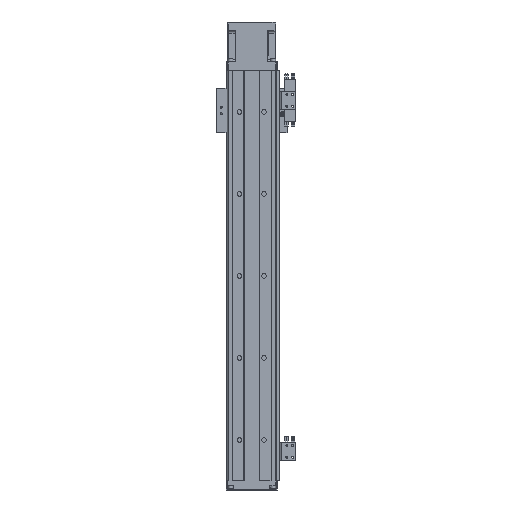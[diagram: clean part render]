
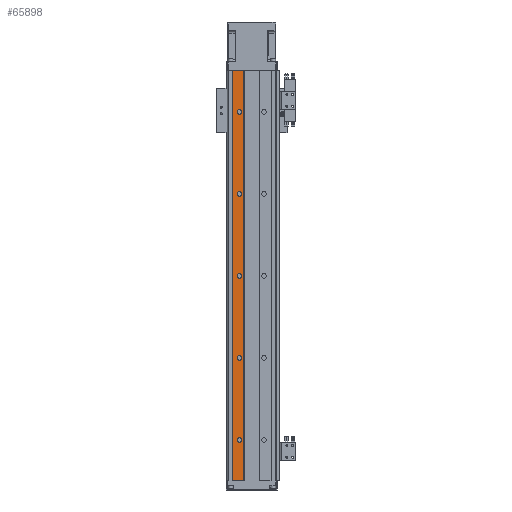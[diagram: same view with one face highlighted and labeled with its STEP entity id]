
A CAD part, front view. The second image highlights one B-rep face of the part: STEP entity #65898.
In plain terms, the highlighted planar face has unit normal (0, -1, 0).
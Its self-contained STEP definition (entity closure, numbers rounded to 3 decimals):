
#108 = VERTEX_POINT ( 'NONE', #5646 ) ;
#180 = VECTOR ( 'NONE', #5118, 1000. ) ;
#510 = DIRECTION ( 'NONE',  ( 0., 1., 0. ) ) ;
#621 = CARTESIAN_POINT ( 'NONE',  ( 17.335, 0.898, -197.25 ) ) ;
#821 = ORIENTED_EDGE ( 'NONE', *, *, #28308, .T. ) ;
#2213 = DIRECTION ( 'NONE',  ( 0., 1., 0. ) ) ;
#2401 = ORIENTED_EDGE ( 'NONE', *, *, #3720, .T. ) ;
#2985 = CARTESIAN_POINT ( 'NONE',  ( 17.335, 0.898, -100. ) ) ;
#3228 = FACE_BOUND ( 'NONE', #44550, .T. ) ;
#3720 = EDGE_CURVE ( 'NONE', #108, #20134, #22482, .T. ) ;
#4504 = AXIS2_PLACEMENT_3D ( 'NONE', #26364, #510, #18743 ) ;
#5041 = CARTESIAN_POINT ( 'NONE',  ( 8.835, 0.898, 250. ) ) ;
#5118 = DIRECTION ( 'NONE',  ( 0., 0., -1. ) ) ;
#5463 = EDGE_CURVE ( 'NONE', #20134, #108, #48154, .T. ) ;
#5646 = CARTESIAN_POINT ( 'NONE',  ( 17.335, 0.898, 97.25 ) ) ;
#5716 = DIRECTION ( 'NONE',  ( 1., 0., 0. ) ) ;
#5761 = DIRECTION ( 'NONE',  ( 0., 1., 0. ) ) ;
#6141 = CARTESIAN_POINT ( 'NONE',  ( 17.335, 0.898, 0. ) ) ;
#6714 = LINE ( 'NONE', #51543, #42991 ) ;
#9421 = CIRCLE ( 'NONE', #78183, 2.75 ) ;
#9423 = CARTESIAN_POINT ( 'NONE',  ( 17.335, 0.898, 102.75 ) ) ;
#9803 = VERTEX_POINT ( 'NONE', #82859 ) ;
#10988 = DIRECTION ( 'NONE',  ( 0., 0., 1. ) ) ;
#11996 = CARTESIAN_POINT ( 'NONE',  ( 17.335, 0.898, 200. ) ) ;
#12319 = DIRECTION ( 'NONE',  ( 0., 1., 0. ) ) ;
#12904 = LINE ( 'NONE', #54312, #74255 ) ;
#14657 = AXIS2_PLACEMENT_3D ( 'NONE', #6141, #12319, #37979 ) ;
#15137 = EDGE_CURVE ( 'NONE', #45537, #31749, #37731, .T. ) ;
#15677 = EDGE_CURVE ( 'NONE', #65454, #67209, #48644, .T. ) ;
#15811 = DIRECTION ( 'NONE',  ( 1., 0., 0. ) ) ;
#16348 = CARTESIAN_POINT ( 'NONE',  ( 22.835, 0.898, 250. ) ) ;
#16477 = DIRECTION ( 'NONE',  ( 0., 1., 0. ) ) ;
#16889 = PLANE ( 'NONE',  #55721 ) ;
#17222 = LINE ( 'NONE', #24753, #180 ) ;
#17753 = CARTESIAN_POINT ( 'NONE',  ( 17.335, 0.898, 100. ) ) ;
#18743 = DIRECTION ( 'NONE',  ( 0., 0., 1. ) ) ;
#20134 = VERTEX_POINT ( 'NONE', #9423 ) ;
#20760 = ORIENTED_EDGE ( 'NONE', *, *, #35880, .T. ) ;
#21337 = ORIENTED_EDGE ( 'NONE', *, *, #29000, .T. ) ;
#21769 = ORIENTED_EDGE ( 'NONE', *, *, #15677, .T. ) ;
#22482 = CIRCLE ( 'NONE', #67981, 2.75 ) ;
#22901 = CARTESIAN_POINT ( 'NONE',  ( 8.835, 0.898, -250. ) ) ;
#24218 = EDGE_LOOP ( 'NONE', ( #31549, #2401 ) ) ;
#24753 = CARTESIAN_POINT ( 'NONE',  ( 22.835, 0.898, 250. ) ) ;
#25480 = ORIENTED_EDGE ( 'NONE', *, *, #15137, .T. ) ;
#25782 = DIRECTION ( 'NONE',  ( 0., 0., 1. ) ) ;
#26357 = FACE_BOUND ( 'NONE', #24218, .T. ) ;
#26364 = CARTESIAN_POINT ( 'NONE',  ( 17.335, 0.898, 0. ) ) ;
#27568 = AXIS2_PLACEMENT_3D ( 'NONE', #55008, #16477, #74359 ) ;
#27976 = ORIENTED_EDGE ( 'NONE', *, *, #78620, .T. ) ;
#28308 = EDGE_CURVE ( 'NONE', #58928, #65454, #12904, .T. ) ;
#29000 = EDGE_CURVE ( 'NONE', #55350, #83364, #35865, .T. ) ;
#30740 = CARTESIAN_POINT ( 'NONE',  ( 17.335, 0.898, 2.75 ) ) ;
#31081 = CARTESIAN_POINT ( 'NONE',  ( 22.835, 0.898, -250. ) ) ;
#31549 = ORIENTED_EDGE ( 'NONE', *, *, #5463, .T. ) ;
#31607 = AXIS2_PLACEMENT_3D ( 'NONE', #51308, #5761, #50747 ) ;
#31609 = VECTOR ( 'NONE', #15811, 1000. ) ;
#31749 = VERTEX_POINT ( 'NONE', #55594 ) ;
#33209 = CIRCLE ( 'NONE', #31607, 2.75 ) ;
#33842 = CARTESIAN_POINT ( 'NONE',  ( 17.335, 0.898, 202.75 ) ) ;
#34251 = CARTESIAN_POINT ( 'NONE',  ( 17.335, 0.898, 200. ) ) ;
#34570 = EDGE_CURVE ( 'NONE', #83364, #55350, #68252, .T. ) ;
#35020 = ORIENTED_EDGE ( 'NONE', *, *, #41788, .F. ) ;
#35865 = CIRCLE ( 'NONE', #27568, 2.75 ) ;
#35880 = EDGE_CURVE ( 'NONE', #51031, #59528, #52958, .T. ) ;
#36479 = FACE_OUTER_BOUND ( 'NONE', #73974, .T. ) ;
#37731 = CIRCLE ( 'NONE', #4504, 2.75 ) ;
#37979 = DIRECTION ( 'NONE',  ( 0., 0., 1. ) ) ;
#39446 = CIRCLE ( 'NONE', #14657, 2.75 ) ;
#40688 = DIRECTION ( 'NONE',  ( 0., 1., 0. ) ) ;
#40911 = EDGE_LOOP ( 'NONE', ( #20760, #49172 ) ) ;
#40950 = ORIENTED_EDGE ( 'NONE', *, *, #42786, .T. ) ;
#41071 = ORIENTED_EDGE ( 'NONE', *, *, #42256, .T. ) ;
#41315 = CARTESIAN_POINT ( 'NONE',  ( 17.335, 0.898, -97.25 ) ) ;
#41788 = EDGE_CURVE ( 'NONE', #76113, #67209, #17222, .T. ) ;
#42252 = DIRECTION ( 'NONE',  ( 0., 1., 0. ) ) ;
#42256 = EDGE_CURVE ( 'NONE', #31749, #45537, #39446, .T. ) ;
#42786 = EDGE_CURVE ( 'NONE', #53541, #9803, #33209, .T. ) ;
#42991 = VECTOR ( 'NONE', #5716, 1000. ) ;
#43374 = DIRECTION ( 'NONE',  ( 0., 1., 0. ) ) ;
#44445 = EDGE_LOOP ( 'NONE', ( #40950, #27976 ) ) ;
#44550 = EDGE_LOOP ( 'NONE', ( #69955, #21337 ) ) ;
#44877 = DIRECTION ( 'NONE',  ( 0., 1., 0. ) ) ;
#45537 = VERTEX_POINT ( 'NONE', #30740 ) ;
#47257 = DIRECTION ( 'NONE',  ( 0., 0., -1. ) ) ;
#47887 = CARTESIAN_POINT ( 'NONE',  ( 22.835, 0.898, -250. ) ) ;
#48154 = CIRCLE ( 'NONE', #63801, 2.75 ) ;
#48197 = DIRECTION ( 'NONE',  ( 0., 0., 1. ) ) ;
#48644 = LINE ( 'NONE', #47887, #31609 ) ;
#49172 = ORIENTED_EDGE ( 'NONE', *, *, #78309, .T. ) ;
#50747 = DIRECTION ( 'NONE',  ( 0., 0., 1. ) ) ;
#50822 = DIRECTION ( 'NONE',  ( 0., 0., 1. ) ) ;
#51031 = VERTEX_POINT ( 'NONE', #33842 ) ;
#51308 = CARTESIAN_POINT ( 'NONE',  ( 17.335, 0.898, -200. ) ) ;
#51543 = CARTESIAN_POINT ( 'NONE',  ( 22.835, 0.898, 250. ) ) ;
#52958 = CIRCLE ( 'NONE', #78198, 2.75 ) ;
#53541 = VERTEX_POINT ( 'NONE', #621 ) ;
#54312 = CARTESIAN_POINT ( 'NONE',  ( 8.835, 0.898, 250. ) ) ;
#55008 = CARTESIAN_POINT ( 'NONE',  ( 17.335, 0.898, -100. ) ) ;
#55350 = VERTEX_POINT ( 'NONE', #69274 ) ;
#55594 = CARTESIAN_POINT ( 'NONE',  ( 17.335, 0.898, -2.75 ) ) ;
#55721 = AXIS2_PLACEMENT_3D ( 'NONE', #16348, #42252, #61817 ) ;
#57175 = ORIENTED_EDGE ( 'NONE', *, *, #67272, .F. ) ;
#57788 = DIRECTION ( 'NONE',  ( 0., 0., 1. ) ) ;
#58928 = VERTEX_POINT ( 'NONE', #5041 ) ;
#59528 = VERTEX_POINT ( 'NONE', #77890 ) ;
#61282 = CARTESIAN_POINT ( 'NONE',  ( 22.835, 0.898, 250. ) ) ;
#61817 = DIRECTION ( 'NONE',  ( 0., 0., 1. ) ) ;
#63551 = FACE_BOUND ( 'NONE', #44445, .T. ) ;
#63609 = DIRECTION ( 'NONE',  ( 0., 1., 0. ) ) ;
#63801 = AXIS2_PLACEMENT_3D ( 'NONE', #83371, #77159, #50822 ) ;
#63818 = CIRCLE ( 'NONE', #82501, 2.75 ) ;
#65454 = VERTEX_POINT ( 'NONE', #22901 ) ;
#65898 = ADVANCED_FACE ( 'NONE', ( #63551, #3228, #72575, #26357, #66527, #36479 ), #16889, .F. ) ;
#66527 = FACE_BOUND ( 'NONE', #40911, .T. ) ;
#67209 = VERTEX_POINT ( 'NONE', #31081 ) ;
#67272 = EDGE_CURVE ( 'NONE', #58928, #76113, #6714, .T. ) ;
#67981 = AXIS2_PLACEMENT_3D ( 'NONE', #17753, #43374, #10988 ) ;
#68252 = CIRCLE ( 'NONE', #79636, 2.75 ) ;
#69274 = CARTESIAN_POINT ( 'NONE',  ( 17.335, 0.898, -102.75 ) ) ;
#69955 = ORIENTED_EDGE ( 'NONE', *, *, #34570, .T. ) ;
#71559 = EDGE_LOOP ( 'NONE', ( #25480, #41071 ) ) ;
#72575 = FACE_BOUND ( 'NONE', #71559, .T. ) ;
#73974 = EDGE_LOOP ( 'NONE', ( #21769, #35020, #57175, #821 ) ) ;
#74255 = VECTOR ( 'NONE', #47257, 1000. ) ;
#74359 = DIRECTION ( 'NONE',  ( 0., 0., 1. ) ) ;
#76113 = VERTEX_POINT ( 'NONE', #61282 ) ;
#77159 = DIRECTION ( 'NONE',  ( 0., 1., 0. ) ) ;
#77890 = CARTESIAN_POINT ( 'NONE',  ( 17.335, 0.898, 197.25 ) ) ;
#78183 = AXIS2_PLACEMENT_3D ( 'NONE', #83275, #63609, #82724 ) ;
#78198 = AXIS2_PLACEMENT_3D ( 'NONE', #11996, #44877, #25782 ) ;
#78309 = EDGE_CURVE ( 'NONE', #59528, #51031, #63818, .T. ) ;
#78620 = EDGE_CURVE ( 'NONE', #9803, #53541, #9421, .T. ) ;
#79636 = AXIS2_PLACEMENT_3D ( 'NONE', #2985, #40688, #48197 ) ;
#82501 = AXIS2_PLACEMENT_3D ( 'NONE', #34251, #2213, #57788 ) ;
#82724 = DIRECTION ( 'NONE',  ( 0., 0., 1. ) ) ;
#82859 = CARTESIAN_POINT ( 'NONE',  ( 17.335, 0.898, -202.75 ) ) ;
#83275 = CARTESIAN_POINT ( 'NONE',  ( 17.335, 0.898, -200. ) ) ;
#83364 = VERTEX_POINT ( 'NONE', #41315 ) ;
#83371 = CARTESIAN_POINT ( 'NONE',  ( 17.335, 0.898, 100. ) ) ;
